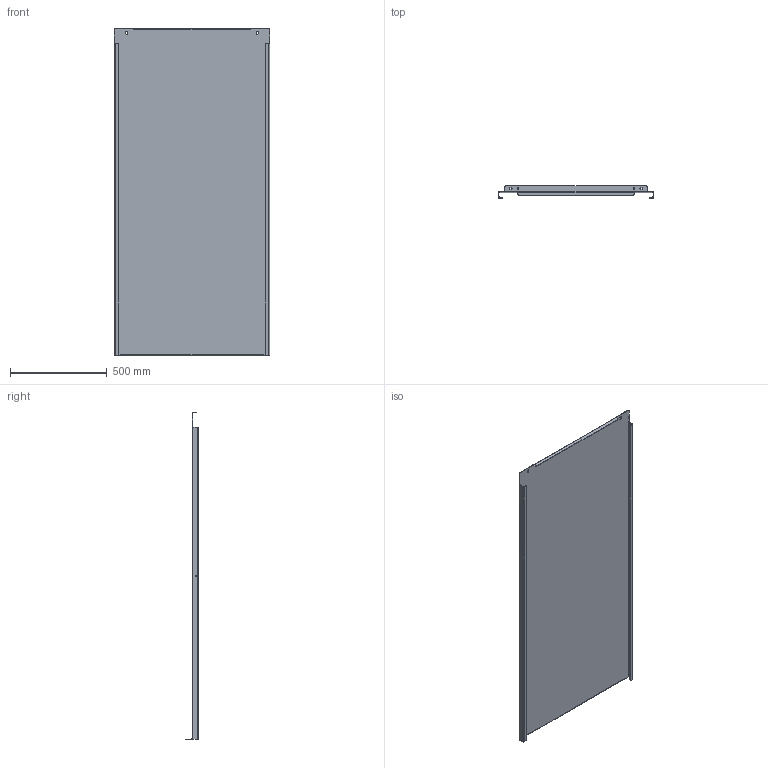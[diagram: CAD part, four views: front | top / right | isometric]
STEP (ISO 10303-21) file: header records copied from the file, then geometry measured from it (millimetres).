
FILE_DESCRIPTION((''),'2;1');
FILE_NAME('MODEL-101_ASM','2014-07-28T',('joelb'),('SAGINAW CONTROL & ENGINEERING'),'PRO/ENGINEER BY PARAMETRIC TECHNOLOGY CORPORATION, 2012070','PRO/ENGINEER BY PARAMETRIC TECHNOLOGY CORPORATION, 2012070','');
FILE_SCHEMA(('AUTOMOTIVE_DESIGN { 1 0 10303 214 1 1 1 1 }'));
Length unit declared in the file: inch
Products named in the file (3): MODEL-101-SUBPANEL; 108623; MODEL-101_ASM
Assembly tree (2 placements, depth 2):
  MODEL-101_ASM
    MODEL-101-SUBPANEL
    108623
Bounding box: 800 x 63.5 x 1687.5 mm (x, y, z)
Volume: 4042136.4 mm3; surface area: 3074880.5 mm2
Topology: 1 solids, 1 shells, 108 faces, 270 edges, 164 vertices
Faces by surface type: plane 58, cylinder 38, bspline 12
Entity records: 4422 total; most frequent: CARTESIAN_POINT 867, DIRECTION 548, ORIENTED_EDGE 540, PRESENTATION_STYLE_ASSIGNMENT 271, STYLED_ITEM 271, CURVE_STYLE 270, EDGE_CURVE 270, AXIS2_PLACEMENT_3D 185
